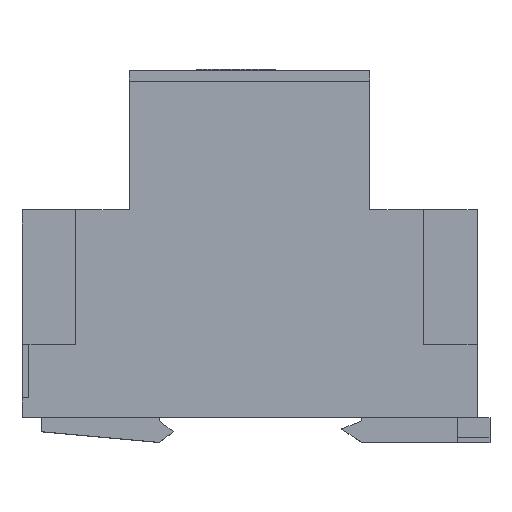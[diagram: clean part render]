
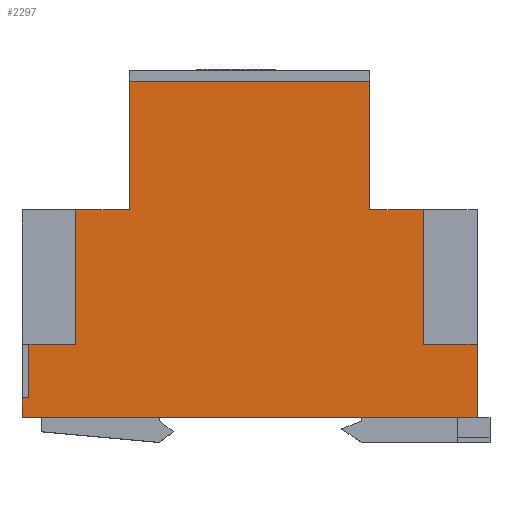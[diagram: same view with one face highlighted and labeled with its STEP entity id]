
A CAD part, top view. The second image highlights one B-rep face of the part: STEP entity #2297.
In plain terms, the highlighted planar face has unit normal (0, 0, 1).
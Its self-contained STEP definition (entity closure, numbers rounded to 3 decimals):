
#179 = VECTOR ( 'NONE', #11183, 1000. ) ;
#282 = DIRECTION ( 'NONE',  ( 0., -1., 0. ) ) ;
#487 = VECTOR ( 'NONE', #8032, 1000. ) ;
#616 = EDGE_CURVE ( 'NONE', #11398, #3170, #10661, .T. ) ;
#899 = LINE ( 'NONE', #6546, #13600 ) ;
#964 = DIRECTION ( 'NONE',  ( 0., 1., 0. ) ) ;
#976 = VERTEX_POINT ( 'NONE', #13727 ) ;
#1045 = VECTOR ( 'NONE', #5891, 1000. ) ;
#1159 = CARTESIAN_POINT ( 'NONE',  ( 0., 13.7, 1.3 ) ) ;
#1314 = VECTOR ( 'NONE', #6355, 1000. ) ;
#1646 = CARTESIAN_POINT ( 'NONE',  ( -74.8, 0., 1.3 ) ) ;
#1669 = EDGE_CURVE ( 'NONE', #6579, #7336, #8432, .T. ) ;
#1741 = DIRECTION ( 'NONE',  ( 0., 1., 0. ) ) ;
#1873 = EDGE_CURVE ( 'NONE', #7336, #13138, #4388, .T. ) ;
#1893 = ORIENTED_EDGE ( 'NONE', *, *, #13316, .F. ) ;
#2209 = DIRECTION ( 'NONE',  ( -1., 0., 0. ) ) ;
#2274 = VECTOR ( 'NONE', #13056, 1000. ) ;
#2285 = EDGE_CURVE ( 'NONE', #976, #4419, #7514, .T. ) ;
#2297 = ADVANCED_FACE ( 'NONE', ( #8327 ), #12508, .T. ) ;
#2438 = EDGE_CURVE ( 'NONE', #12450, #976, #7843, .T. ) ;
#2551 = LINE ( 'NONE', #8560, #5435 ) ;
#2586 = DIRECTION ( 'NONE',  ( 0., 0., 1. ) ) ;
#2717 = DIRECTION ( 'NONE',  ( 1., 0., 0. ) ) ;
#2794 = EDGE_CURVE ( 'NONE', #3474, #6579, #6805, .T. ) ;
#2820 = EDGE_CURVE ( 'NONE', #3170, #3474, #8158, .T. ) ;
#3170 = VERTEX_POINT ( 'NONE', #13262 ) ;
#3172 = DIRECTION ( 'NONE',  ( 1., 0., 0. ) ) ;
#3260 = VECTOR ( 'NONE', #1741, 1000. ) ;
#3474 = VERTEX_POINT ( 'NONE', #11815 ) ;
#3511 = EDGE_CURVE ( 'NONE', #10873, #11398, #13238, .T. ) ;
#3804 = CARTESIAN_POINT ( 'NONE',  ( 0., 38.7, 1.3 ) ) ;
#3899 = CARTESIAN_POINT ( 'NONE',  ( -64.8, 38.7, 1.3 ) ) ;
#4162 = ORIENTED_EDGE ( 'NONE', *, *, #3511, .F. ) ;
#4300 = LINE ( 'NONE', #13154, #2274 ) ;
#4346 = EDGE_CURVE ( 'NONE', #12188, #11548, #2551, .T. ) ;
#4388 = LINE ( 'NONE', #10363, #12671 ) ;
#4419 = VERTEX_POINT ( 'NONE', #9606 ) ;
#4421 = VECTOR ( 'NONE', #282, 1000. ) ;
#4794 = DIRECTION ( 'NONE',  ( 0., -1., 0. ) ) ;
#4945 = VECTOR ( 'NONE', #12844, 1000. ) ;
#5062 = CARTESIAN_POINT ( 'NONE',  ( -83.5, 3.7, 1.3 ) ) ;
#5084 = CARTESIAN_POINT ( 'NONE',  ( 0., 0., 1.3 ) ) ;
#5170 = AXIS2_PLACEMENT_3D ( 'NONE', #8167, #2586, #2717 ) ;
#5280 = CARTESIAN_POINT ( 'NONE',  ( 0., 13.7, 1.3 ) ) ;
#5435 = VECTOR ( 'NONE', #964, 1000. ) ;
#5514 = DIRECTION ( 'NONE',  ( 0., 1., 0. ) ) ;
#5557 = CARTESIAN_POINT ( 'NONE',  ( -84.8, 0., 1.3 ) ) ;
#5811 = ORIENTED_EDGE ( 'NONE', *, *, #7056, .F. ) ;
#5844 = ORIENTED_EDGE ( 'NONE', *, *, #6281, .F. ) ;
#5891 = DIRECTION ( 'NONE',  ( 1., 0., 0. ) ) ;
#6233 = ORIENTED_EDGE ( 'NONE', *, *, #1873, .F. ) ;
#6281 = EDGE_CURVE ( 'NONE', #13138, #12188, #13700, .T. ) ;
#6346 = ORIENTED_EDGE ( 'NONE', *, *, #4346, .F. ) ;
#6355 = DIRECTION ( 'NONE',  ( 0., 1., 0. ) ) ;
#6546 = CARTESIAN_POINT ( 'NONE',  ( -83.5, 3.7, 1.3 ) ) ;
#6559 = CARTESIAN_POINT ( 'NONE',  ( 0., 13.7, 1.3 ) ) ;
#6579 = VERTEX_POINT ( 'NONE', #13709 ) ;
#6805 = LINE ( 'NONE', #12499, #7146 ) ;
#7032 = DIRECTION ( 'NONE',  ( 0., -1., 0. ) ) ;
#7056 = EDGE_CURVE ( 'NONE', #8720, #10873, #13164, .T. ) ;
#7077 = CARTESIAN_POINT ( 'NONE',  ( -64.8, 62.7, 1.3 ) ) ;
#7146 = VECTOR ( 'NONE', #4794, 1000. ) ;
#7292 = EDGE_CURVE ( 'NONE', #11580, #11548, #11966, .T. ) ;
#7336 = VERTEX_POINT ( 'NONE', #6559 ) ;
#7411 = ORIENTED_EDGE ( 'NONE', *, *, #1669, .F. ) ;
#7436 = CARTESIAN_POINT ( 'NONE',  ( 0., 62.7, 1.3 ) ) ;
#7514 = LINE ( 'NONE', #1646, #3260 ) ;
#7843 = LINE ( 'NONE', #5280, #4945 ) ;
#8032 = DIRECTION ( 'NONE',  ( -1., 0., 0. ) ) ;
#8158 = LINE ( 'NONE', #3804, #1045 ) ;
#8167 = CARTESIAN_POINT ( 'NONE',  ( 0., 0., 1.3 ) ) ;
#8228 = CARTESIAN_POINT ( 'NONE',  ( -20., 62.7, 1.3 ) ) ;
#8327 = FACE_OUTER_BOUND ( 'NONE', #11369, .T. ) ;
#8432 = LINE ( 'NONE', #1159, #179 ) ;
#8537 = ORIENTED_EDGE ( 'NONE', *, *, #2285, .F. ) ;
#8560 = CARTESIAN_POINT ( 'NONE',  ( -84.8, 0., 1.3 ) ) ;
#8720 = VERTEX_POINT ( 'NONE', #3899 ) ;
#8744 = CARTESIAN_POINT ( 'NONE',  ( -83.5, 3.7, 1.3 ) ) ;
#9360 = CARTESIAN_POINT ( 'NONE',  ( -84.8, 3.7, 1.3 ) ) ;
#9579 = EDGE_CURVE ( 'NONE', #4419, #8720, #4300, .T. ) ;
#9606 = CARTESIAN_POINT ( 'NONE',  ( -74.8, 38.7, 1.3 ) ) ;
#9668 = ORIENTED_EDGE ( 'NONE', *, *, #2794, .F. ) ;
#9906 = CARTESIAN_POINT ( 'NONE',  ( -20., 0., 1.3 ) ) ;
#10363 = CARTESIAN_POINT ( 'NONE',  ( 0., 0., 1.3 ) ) ;
#10661 = LINE ( 'NONE', #9906, #4421 ) ;
#10873 = VERTEX_POINT ( 'NONE', #7077 ) ;
#11061 = ORIENTED_EDGE ( 'NONE', *, *, #616, .F. ) ;
#11183 = DIRECTION ( 'NONE',  ( 1., 0., 0. ) ) ;
#11193 = CARTESIAN_POINT ( 'NONE',  ( 0., 0., 1.3 ) ) ;
#11369 = EDGE_LOOP ( 'NONE', ( #11831, #6346, #5844, #6233, #7411, #9668, #12875, #11061, #4162, #5811, #13097, #8537, #12013, #1893 ) ) ;
#11398 = VERTEX_POINT ( 'NONE', #8228 ) ;
#11548 = VERTEX_POINT ( 'NONE', #9360 ) ;
#11580 = VERTEX_POINT ( 'NONE', #5062 ) ;
#11732 = CARTESIAN_POINT ( 'NONE',  ( -64.8, 0., 1.3 ) ) ;
#11815 = CARTESIAN_POINT ( 'NONE',  ( -10., 38.7, 1.3 ) ) ;
#11831 = ORIENTED_EDGE ( 'NONE', *, *, #7292, .T. ) ;
#11966 = LINE ( 'NONE', #8744, #13326 ) ;
#12013 = ORIENTED_EDGE ( 'NONE', *, *, #2438, .F. ) ;
#12188 = VERTEX_POINT ( 'NONE', #5557 ) ;
#12450 = VERTEX_POINT ( 'NONE', #13693 ) ;
#12499 = CARTESIAN_POINT ( 'NONE',  ( -10., 0., 1.3 ) ) ;
#12508 = PLANE ( 'NONE',  #5170 ) ;
#12671 = VECTOR ( 'NONE', #7032, 1000. ) ;
#12844 = DIRECTION ( 'NONE',  ( 1., 0., 0. ) ) ;
#12875 = ORIENTED_EDGE ( 'NONE', *, *, #2820, .F. ) ;
#13056 = DIRECTION ( 'NONE',  ( 1., 0., 0. ) ) ;
#13097 = ORIENTED_EDGE ( 'NONE', *, *, #9579, .F. ) ;
#13138 = VERTEX_POINT ( 'NONE', #5084 ) ;
#13154 = CARTESIAN_POINT ( 'NONE',  ( 0., 38.7, 1.3 ) ) ;
#13164 = LINE ( 'NONE', #11732, #1314 ) ;
#13238 = LINE ( 'NONE', #7436, #13924 ) ;
#13262 = CARTESIAN_POINT ( 'NONE',  ( -20., 38.7, 1.3 ) ) ;
#13316 = EDGE_CURVE ( 'NONE', #11580, #12450, #899, .T. ) ;
#13326 = VECTOR ( 'NONE', #2209, 1000. ) ;
#13600 = VECTOR ( 'NONE', #5514, 1000. ) ;
#13693 = CARTESIAN_POINT ( 'NONE',  ( -83.5, 13.7, 1.3 ) ) ;
#13700 = LINE ( 'NONE', #11193, #487 ) ;
#13709 = CARTESIAN_POINT ( 'NONE',  ( -10., 13.7, 1.3 ) ) ;
#13727 = CARTESIAN_POINT ( 'NONE',  ( -74.8, 13.7, 1.3 ) ) ;
#13924 = VECTOR ( 'NONE', #3172, 1000. ) ;
